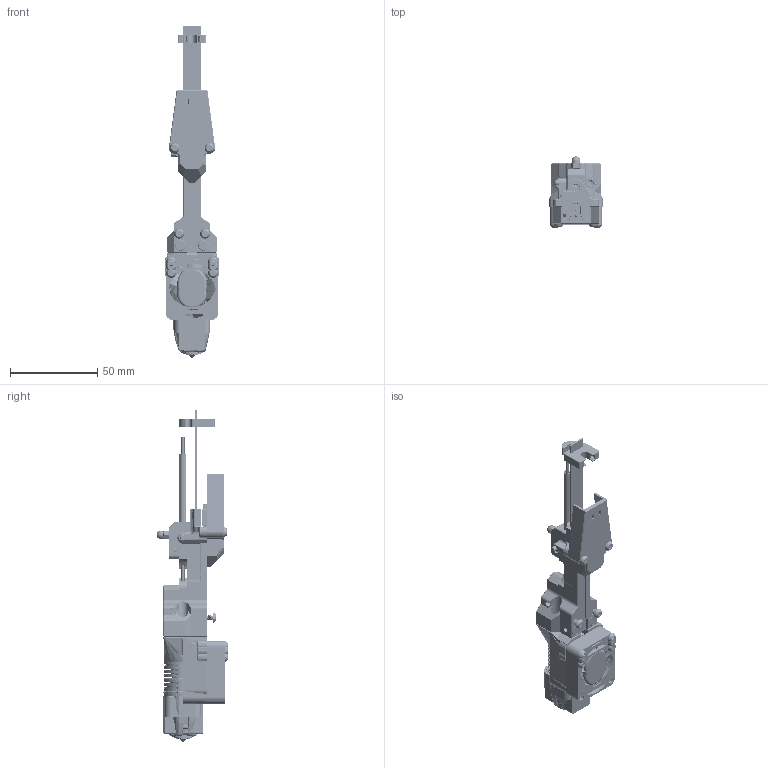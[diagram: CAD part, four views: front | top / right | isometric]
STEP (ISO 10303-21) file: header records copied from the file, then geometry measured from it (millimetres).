
FILE_DESCRIPTION(/* description */ (''),/* implementation_level */ '2;1');
FILE_NAME(/* name */ 'Lineux Hotswap Tool v27.step',/* time_stamp */ '2026-11-15T13:31:47+07:00',/* author */ (''),/* organization */ (''),/* preprocessor_version */ 'ST-DEVELOPER v20.2',/* originating_system */ 'Autodesk Translation Framework v15.17.0.0',/* authorisation */ '');
FILE_SCHEMA (('AUTOMOTIVE_DESIGN { 1 0 10303 214 3 1 1 }'));
Products named in the file (172): Lineux Hotswap Tool; Hotend Mount; V6chp Mount; m3x5x4mm heat insert (11); m3x5x4mm heat insert (10); m3 x 15mm bhcs (5); m3 x 15mm bhcs (4); m3x5x4mm heat insert; m3x5x4mm heat insert (2); ptfe 40mm; 3010 Fan; m2.5 x 6mm shcs (4); m2.5 x 6mm shcs (5); m2.5 x 6mm shcs (7); m2.5 x 6mm shcs (6); v6chp_shroud_mount; v6chp_mount; Chc Pro Mount; m3x5x4mm heat insert (27); m3x5x4mm heat insert (29); m3 x 15mm bhcs (7); m3x5x4mm heat insert (26); ptfe 38mm; m3x5x4mm heat insert (28); m3 x 15mm bhcs (6); 3010 Fan (1); m2.5 x 6mm shcs; m2.5 x 6mm shcs (2); m2.5 x 6mm shcs (3); m2.5 x 6mm shcs (1); chcpro_shroud_mount; chcpro_mount; Tz V6 3.0 Mount; ptfe 42mm; m3x5x4mm heat insert (31); m3x5x4mm heat insert (32); m3x5x4mm heat insert (33); m3 x 15mm bhcs (8); m3x5x4mm heat insert (30); m3 x 15mm bhcs (9)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
Assembly tree (173 placements, depth 5):
  Lineux Hotswap Tool
    Hotend Mount
      V6chp Mount
        m3x5x4mm heat insert (11)
        m3x5x4mm heat insert (10)
        m3 x 15mm bhcs (5)
        m3 x 15mm bhcs (4)
        m3x5x4mm heat insert
        m3x5x4mm heat insert (2)
        ptfe 40mm
        3010 Fan
        m2.5 x 6mm shcs (4)
        m2.5 x 6mm shcs (5)
        m2.5 x 6mm shcs (7)
        m2.5 x 6mm shcs (6)
        v6chp_shroud_mount
        v6chp_mount
      Chc Pro Mount
        m3x5x4mm heat insert (27)
        m3x5x4mm heat insert (29)
        m3 x 15mm bhcs (7)
        m3x5x4mm heat insert (26)
        ptfe 38mm
        m3x5x4mm heat insert (28)
        m3 x 15mm bhcs (6)
        3010 Fan (1)
        m2.5 x 6mm shcs
        m2.5 x 6mm shcs (2)
        m2.5 x 6mm shcs (3)
        m2.5 x 6mm shcs (1)
        chcpro_shroud_mount
        chcpro_mount
      Tz V6 3.0 Mount
        ptfe 42mm
        m3x5x4mm heat insert (31)
        m3x5x4mm heat insert (32)
        m3x5x4mm heat insert (33)
        m3 x 15mm bhcs (8)
        m3x5x4mm heat insert (30)
        m3 x 15mm bhcs (9)
        3010 Fan (2)
        m2.5 x 8mm shcs (3)
        m2.5 x 8mm shcs (1)
        m2.5 x 8mm shcs
        m2.5 x 8mm shcs (2)
        tzv63.0_shroud_mount
        tzv63.0_mount
      E3D Revo Voron Mount
        m3 x 15mm bhcs (11)
        m3x5x4mm heat insert (35)
        m3x5x4mm heat insert (36)
        m3x5x4mm heat insert (37)
        m3 x 15mm bhcs (10)
        m3x5x4mm heat insert (34)
        ptfe 44mm
        3010 Fan (3)
        m3 x 15mm shcs
        m3 x 15mm shcs (1)
        revo_voron_shroud_mount
        m3 x 10mm shcs (3)
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Bounding box: 31.5 x 40.75 x 190.5 mm (x, y, z)
Volume: 184693.8 mm3; surface area: 197442.1 mm2
Topology: 176 solids, 176 shells, 14339 faces, 37513 edges, 23766 vertices
Faces by surface type: plane 5867, cylinder 4733, bspline 2717, cone 610, torus 291, sphere 121
Full cylindrical faces by diameter (mm): 0.231 x4, 0.4 x6, 0.71 x1, 1.05 x16, 1.145 x32, 1.221 x30, 1.3 x1, 1.4 x8, 1.454 x28, 1.5 x2, 1.6 x45, 1.75 x2, 1.8 x6, 1.9 x4, 1.916 x232, 1.93 x1, 2 x20, 2.05 x4, 2.075 x48, 2.09 x3, 2.1 x3, 2.3 x2, 2.35 x19, 2.356 x388, 2.4 x4, 2.43 x152, 2.459 x1, 2.5 x40, 2.529 x13, 2.58 x42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
Entity records: 1166860 total; most frequent: CARTESIAN_POINT 839264, ORIENTED_EDGE 74434, DIRECTION 57146, EDGE_CURVE 37217, VERTEX_POINT 23622, AXIS2_PLACEMENT_3D 20651, LINE 15844, VECTOR 15844
